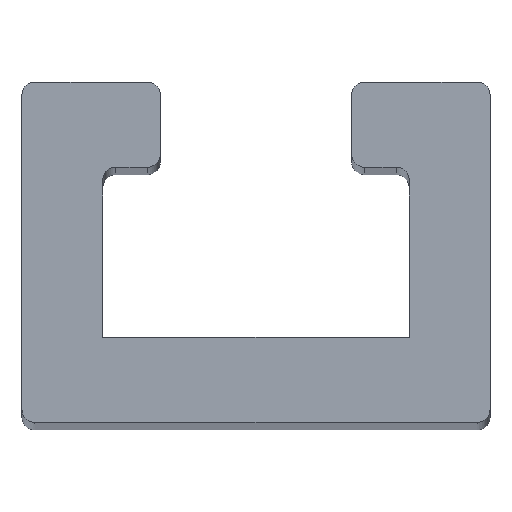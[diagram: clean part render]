
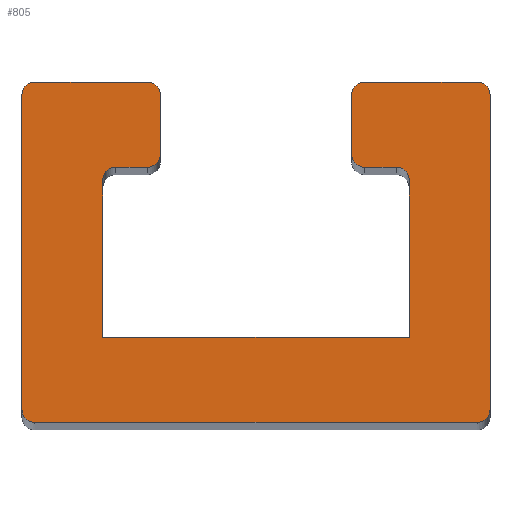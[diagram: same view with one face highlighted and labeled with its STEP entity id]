
A CAD part, top view. The second image highlights one B-rep face of the part: STEP entity #805.
In plain terms, the highlighted planar face has unit normal (0, 0, 1).
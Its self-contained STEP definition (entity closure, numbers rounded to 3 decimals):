
#60=CARTESIAN_POINT('',(2.2,6.,100.0));
#61=VERTEX_POINT('',#60);
#68=CARTESIAN_POINT('',(1.9,5.7,100.0));
#69=VERTEX_POINT('',#68);
#70=CARTESIAN_POINT('',(2.2,5.7,100.0));
#71=DIRECTION('',(0.0,0.0,1.));
#72=DIRECTION('',(-0.707,0.707,0.0));
#73=AXIS2_PLACEMENT_3D('',#70,#71,#72);
#74=CIRCLE('',#73,0.3);
#75=EDGE_CURVE('',#61,#69,#74,.T.);
#100=CARTESIAN_POINT('',(2.95,6.,100.0));
#101=VERTEX_POINT('',#100);
#108=CARTESIAN_POINT('',(2.95,6.,100.0));
#109=DIRECTION('',(-1.0,0.0,0.0));
#110=VECTOR('',#109,0.75);
#111=LINE('',#108,#110);
#112=EDGE_CURVE('',#101,#61,#111,.T.);
#133=CARTESIAN_POINT('',(9.1,5.7,100.0));
#134=VERTEX_POINT('',#133);
#141=CARTESIAN_POINT('',(8.8,6.,100.0));
#142=VERTEX_POINT('',#141);
#143=CARTESIAN_POINT('',(8.8,5.7,100.0));
#144=DIRECTION('',(0.0,0.0,1.));
#145=DIRECTION('',(0.707,0.707,0.0));
#146=AXIS2_PLACEMENT_3D('',#143,#144,#145);
#147=CIRCLE('',#146,0.3);
#148=EDGE_CURVE('',#134,#142,#147,.T.);
#173=CARTESIAN_POINT('',(9.1,2.,100.0));
#174=VERTEX_POINT('',#173);
#181=CARTESIAN_POINT('',(9.1,2.,100.0));
#182=DIRECTION('',(0.0,1.0,0.0));
#183=VECTOR('',#182,3.7);
#184=LINE('',#181,#183);
#185=EDGE_CURVE('',#174,#134,#184,.T.);
#195=CARTESIAN_POINT('',(10.7,8.0,100.0));
#196=VERTEX_POINT('',#195);
#197=CARTESIAN_POINT('',(11.0,7.7,100.0));
#198=VERTEX_POINT('',#197);
#199=CARTESIAN_POINT('',(10.7,7.7,100.0));
#200=DIRECTION('',(0.0,0.0,-1.0));
#201=DIRECTION('',(0.707,0.707,0.0));
#202=AXIS2_PLACEMENT_3D('',#199,#200,#201);
#203=CIRCLE('',#202,0.3);
#204=EDGE_CURVE('',#196,#198,#203,.T.);
#246=CARTESIAN_POINT('',(8.05,8.,100.0));
#247=VERTEX_POINT('',#246);
#254=CARTESIAN_POINT('',(8.05,8.,100.0));
#255=DIRECTION('',(1.0,0.0,0.0));
#256=VECTOR('',#255,2.65);
#257=LINE('',#254,#256);
#258=EDGE_CURVE('',#247,#196,#257,.T.);
#411=CARTESIAN_POINT('',(8.05,6.,100.0));
#412=VERTEX_POINT('',#411);
#413=CARTESIAN_POINT('',(7.75,6.3,100.0));
#414=VERTEX_POINT('',#413);
#415=CARTESIAN_POINT('',(8.05,6.3,100.0));
#416=DIRECTION('',(0.0,0.0,-1.));
#417=DIRECTION('',(-0.707,-0.707,0.0));
#418=AXIS2_PLACEMENT_3D('',#415,#416,#417);
#419=CIRCLE('',#418,0.3);
#420=EDGE_CURVE('',#412,#414,#419,.T.);
#444=CARTESIAN_POINT('',(8.8,6.,100.0));
#445=DIRECTION('',(-1.0,0.0,0.0));
#446=VECTOR('',#445,0.75);
#447=LINE('',#444,#446);
#448=EDGE_CURVE('',#142,#412,#447,.T.);
#460=CARTESIAN_POINT('',(3.25,6.3,100.0));
#461=VERTEX_POINT('',#460);
#462=CARTESIAN_POINT('',(2.95,6.3,100.0));
#463=DIRECTION('',(0.0,0.0,-1.));
#464=DIRECTION('',(0.707,-0.707,0.0));
#465=AXIS2_PLACEMENT_3D('',#462,#463,#464);
#466=CIRCLE('',#465,0.3);
#467=EDGE_CURVE('',#461,#101,#466,.T.);
#487=CARTESIAN_POINT('',(3.25,7.7,100.0));
#488=VERTEX_POINT('',#487);
#495=CARTESIAN_POINT('',(3.25,7.7,100.0));
#496=DIRECTION('',(0.0,-1.0,0.0));
#497=VECTOR('',#496,1.4);
#498=LINE('',#495,#497);
#499=EDGE_CURVE('',#488,#461,#498,.T.);
#509=CARTESIAN_POINT('',(2.95,8.0,100.0));
#510=VERTEX_POINT('',#509);
#511=CARTESIAN_POINT('',(2.95,7.7,100.0));
#512=DIRECTION('',(0.0,0.0,-1.));
#513=DIRECTION('',(0.707,0.707,0.0));
#514=AXIS2_PLACEMENT_3D('',#511,#512,#513);
#515=CIRCLE('',#514,0.3);
#516=EDGE_CURVE('',#510,#488,#515,.T.);
#536=CARTESIAN_POINT('',(0.3,8.0,100.0));
#537=VERTEX_POINT('',#536);
#544=CARTESIAN_POINT('',(0.3,8.0,100.0));
#545=DIRECTION('',(1.0,0.0,0.0));
#546=VECTOR('',#545,2.65);
#547=LINE('',#544,#546);
#548=EDGE_CURVE('',#537,#510,#547,.T.);
#558=CARTESIAN_POINT('',(0.0,7.7,100.0));
#559=VERTEX_POINT('',#558);
#560=CARTESIAN_POINT('',(0.3,7.7,100.0));
#561=DIRECTION('',(0.0,0.0,-1.));
#562=DIRECTION('',(-0.707,0.707,0.0));
#563=AXIS2_PLACEMENT_3D('',#560,#561,#562);
#564=CIRCLE('',#563,0.3);
#565=EDGE_CURVE('',#559,#537,#564,.T.);
#585=CARTESIAN_POINT('',(0.0,0.3,100.0));
#586=VERTEX_POINT('',#585);
#593=CARTESIAN_POINT('',(0.0,0.3,100.0));
#594=DIRECTION('',(0.0,1.0,0.0));
#595=VECTOR('',#594,7.4);
#596=LINE('',#593,#595);
#597=EDGE_CURVE('',#586,#559,#596,.T.);
#607=CARTESIAN_POINT('',(11.0,0.3,100.0));
#608=VERTEX_POINT('',#607);
#609=CARTESIAN_POINT('',(10.7,0.0,100.0));
#610=VERTEX_POINT('',#609);
#611=CARTESIAN_POINT('',(10.7,0.3,100.0));
#612=DIRECTION('',(0.0,0.0,-1.0));
#613=DIRECTION('',(0.707,-0.707,0.0));
#614=AXIS2_PLACEMENT_3D('',#611,#612,#613);
#615=CIRCLE('',#614,0.3);
#616=EDGE_CURVE('',#608,#610,#615,.T.);
#640=CARTESIAN_POINT('',(0.3,0.0,100.0));
#641=VERTEX_POINT('',#640);
#642=CARTESIAN_POINT('',(10.7,0.0,100.0));
#643=DIRECTION('',(-1.0,0.0,0.0));
#644=VECTOR('',#643,10.4);
#645=LINE('',#642,#644);
#646=EDGE_CURVE('',#610,#641,#645,.T.);
#663=CARTESIAN_POINT('',(0.3,0.3,100.0));
#664=DIRECTION('',(0.0,0.0,-1.));
#665=DIRECTION('',(-0.707,-0.707,0.0));
#666=AXIS2_PLACEMENT_3D('',#663,#664,#665);
#667=CIRCLE('',#666,0.3);
#668=EDGE_CURVE('',#641,#586,#667,.T.);
#681=CARTESIAN_POINT('',(7.75,7.7,100.0));
#682=VERTEX_POINT('',#681);
#683=CARTESIAN_POINT('',(8.05,7.7,100.0));
#684=DIRECTION('',(0.0,0.0,-1.));
#685=DIRECTION('',(-0.707,0.707,0.0));
#686=AXIS2_PLACEMENT_3D('',#683,#684,#685);
#687=CIRCLE('',#686,0.3);
#688=EDGE_CURVE('',#682,#247,#687,.T.);
#707=CARTESIAN_POINT('',(1.9,2.,100.0));
#708=VERTEX_POINT('',#707);
#709=CARTESIAN_POINT('',(1.9,5.7,100.0));
#710=DIRECTION('',(0.0,-1.0,0.0));
#711=VECTOR('',#710,3.7);
#712=LINE('',#709,#711);
#713=EDGE_CURVE('',#69,#708,#712,.T.);
#730=CARTESIAN_POINT('',(1.9,2.,100.0));
#731=DIRECTION('',(1.0,0.0,0.0));
#732=VECTOR('',#731,7.2);
#733=LINE('',#730,#732);
#734=EDGE_CURVE('',#708,#174,#733,.T.);
#748=CARTESIAN_POINT('',(7.75,6.3,100.0));
#749=DIRECTION('',(0.0,1.0,0.0));
#750=VECTOR('',#749,1.4);
#751=LINE('',#748,#750);
#752=EDGE_CURVE('',#414,#682,#751,.T.);
#765=CARTESIAN_POINT('',(11.0,7.7,100.0));
#766=DIRECTION('',(0.0,-1.0,0.0));
#767=VECTOR('',#766,7.4);
#768=LINE('',#765,#767);
#769=EDGE_CURVE('',#198,#608,#768,.T.);
#776=CARTESIAN_POINT('',(5.5,3.729,100.0));
#777=DIRECTION('',(0.0,0.0,1.0));
#778=DIRECTION('',(1.0,0.0,0.0));
#779=AXIS2_PLACEMENT_3D('',#776,#777,#778);
#780=PLANE('',#779);
#781=ORIENTED_EDGE('',*,*,#204,.F.);
#782=ORIENTED_EDGE('',*,*,#258,.F.);
#783=ORIENTED_EDGE('',*,*,#688,.F.);
#784=ORIENTED_EDGE('',*,*,#752,.F.);
#785=ORIENTED_EDGE('',*,*,#420,.F.);
#786=ORIENTED_EDGE('',*,*,#448,.F.);
#787=ORIENTED_EDGE('',*,*,#148,.F.);
#788=ORIENTED_EDGE('',*,*,#185,.F.);
#789=ORIENTED_EDGE('',*,*,#734,.F.);
#790=ORIENTED_EDGE('',*,*,#713,.F.);
#791=ORIENTED_EDGE('',*,*,#75,.F.);
#792=ORIENTED_EDGE('',*,*,#112,.F.);
#793=ORIENTED_EDGE('',*,*,#467,.F.);
#794=ORIENTED_EDGE('',*,*,#499,.F.);
#795=ORIENTED_EDGE('',*,*,#516,.F.);
#796=ORIENTED_EDGE('',*,*,#548,.F.);
#797=ORIENTED_EDGE('',*,*,#565,.F.);
#798=ORIENTED_EDGE('',*,*,#597,.F.);
#799=ORIENTED_EDGE('',*,*,#668,.F.);
#800=ORIENTED_EDGE('',*,*,#646,.F.);
#801=ORIENTED_EDGE('',*,*,#616,.F.);
#802=ORIENTED_EDGE('',*,*,#769,.F.);
#803=EDGE_LOOP('',(#781,#782,#783,#784,#785,#786,#787,#788,#789,#790,#791,#792,#793,#794,#795,#796,#797,#798,#799,#800,#801,#802));
#804=FACE_OUTER_BOUND('',#803,.T.);
#805=ADVANCED_FACE('',(#804),#780,.T.);
